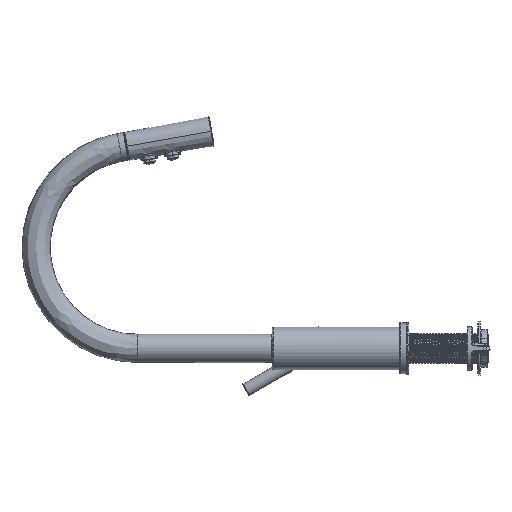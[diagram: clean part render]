
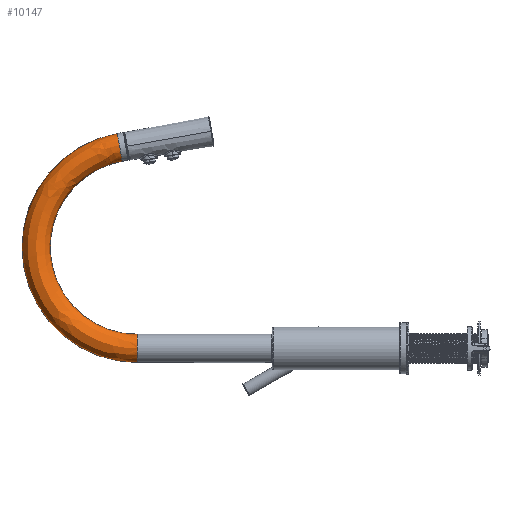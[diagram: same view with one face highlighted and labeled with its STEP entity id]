
A CAD part, left-side view. The second image highlights one B-rep face of the part: STEP entity #10147.
In plain terms, the highlighted free-form (B-spline) face has degree [3, 3] with [4, 4] control points.
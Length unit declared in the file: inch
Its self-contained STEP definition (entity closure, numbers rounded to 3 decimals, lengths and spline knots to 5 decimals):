
#1366 = CARTESIAN_POINT ( 'NONE',  ( -1.1811, 20.40662, 7.54748 ) ) ;
#1451 = ORIENTED_EDGE ( 'NONE', *, *, #45615, .T. ) ;
#1858 = ORIENTED_EDGE ( 'NONE', *, *, #90316, .F. ) ;
#6591 = CARTESIAN_POINT ( 'NONE',  ( -0.08794, 12.5515, 7.7171 ) ) ;
#7357 = CARTESIAN_POINT ( 'NONE',  ( 0., 12.15651, 7.80288 ) ) ;
#7377 = DIRECTION ( 'NONE',  ( 0., 0., 1. ) ) ;
#8626 = AXIS2_PLACEMENT_3D ( 'NONE', #101170, #93024, #69632 ) ;
#8905 = VERTEX_POINT ( 'NONE', #81706 ) ;
#8965 = CARTESIAN_POINT ( 'NONE',  ( -1.1811, 11.52551, 0.59055 ) ) ;
#10147 = ADVANCED_FACE ( 'NONE', ( #107387 ), #56449, .T. ) ;
#10581 = EDGE_LOOP ( 'NONE', ( #96517, #34103, #67368, #89973, #1451, #1858 ) ) ;
#12593 = CARTESIAN_POINT ( 'NONE',  ( -0.08808, 12.52909, 7.72363 ) ) ;
#13124 = CARTESIAN_POINT ( 'NONE',  ( -0.05401, 12.60697, 7.696 ) ) ;
#14457 = DIRECTION ( 'NONE',  ( 1., 0., 0. ) ) ;
#14738 = CARTESIAN_POINT ( 'NONE',  ( -0.07723, 12.58279, 7.70617 ) ) ;
#16586 = CARTESIAN_POINT ( 'NONE',  ( 0., 12.3616, 8.96604 ) ) ;
#20759 = CIRCLE ( 'NONE', #78117, 4.81487 ) ;
#21853 = CARTESIAN_POINT ( 'NONE',  ( -0.04481, 12.46409, 7.73644 ) ) ;
#22632 = CARTESIAN_POINT ( 'NONE',  ( 0., 11.52551, 4.22432 ) ) ;
#22916 = CARTESIAN_POINT ( 'NONE',  ( -0.07071, 12.48744, 7.73285 ) ) ;
#24222 = CARTESIAN_POINT ( 'NONE',  ( 0., 11.52551, 0.59055 ) ) ;
#25046 = CIRCLE ( 'NONE', #91016, 0.59055 ) ;
#26550 = DIRECTION ( 'NONE',  ( 0., 1., 0. ) ) ;
#26939 = VERTEX_POINT ( 'NONE', #67963 ) ;
#29446 = CIRCLE ( 'NONE', #8626, 3.63377 ) ;
#30554 = CARTESIAN_POINT ( 'NONE',  ( -0.01175, 12.45285, 7.73776 ) ) ;
#32097 = DIRECTION ( 'NONE',  ( 0., 0., 1. ) ) ;
#32394 = CARTESIAN_POINT ( 'NONE',  ( 0., 18.22805, 6.7323 ) ) ;
#33836 = CIRCLE ( 'NONE', #91165, 3.63377 ) ;
#34103 = ORIENTED_EDGE ( 'NONE', *, *, #48937, .T. ) ;
#34634 = VERTEX_POINT ( 'NONE', #68837 ) ;
#36094 = B_SPLINE_CURVE_WITH_KNOTS ( 'NONE', 3,
 ( #71873, #47946, #56105, #89254, #71336, #63734, #105555, #13124, #46872, #97389, #14738, #81094, #55033, #6591, #87120, #96320, #12593, #62671, #55564, #47410, #105013, #22916, #39793, #80028, #21853, #95784, #30554, #103416 ),
 .UNSPECIFIED., .F., .F.,
 ( 4, 2, 2, 2, 2, 2, 2, 2, 2, 2, 2, 2, 2, 4 ),
 ( 0.01058, 0.01102, 0.01147, 0.01191, 0.01235, 0.01323, 0.01367, 0.01412, 0.01456, 0.015, 0.01544, 0.01588, 0.01676, 0.01765 ),
 .UNSPECIFIED. ) ;
#37100 = CIRCLE ( 'NONE', #106542, 0.59055 ) ;
#39623 = CARTESIAN_POINT ( 'NONE',  ( 0., 12.15651, 7.80288 ) ) ;
#39793 = CARTESIAN_POINT ( 'NONE',  ( -0.06698, 12.48291, 7.73363 ) ) ;
#42826 = VERTEX_POINT ( 'NONE', #77972 ) ;
#44407 = EDGE_CURVE ( 'NONE', #26939, #61068, #37100, .T. ) ;
#45615 = EDGE_CURVE ( 'NONE', #62528, #8905, #25046, .T. ) ;
#46872 = CARTESIAN_POINT ( 'NONE',  ( -0.05852, 12.60348, 7.69754 ) ) ;
#47410 = CARTESIAN_POINT ( 'NONE',  ( -0.07983, 12.502, 7.73005 ) ) ;
#47946 = CARTESIAN_POINT ( 'NONE',  ( -0.00588, 12.62399, 7.68807 ) ) ;
#47971 = CARTESIAN_POINT ( 'NONE',  ( 0., 12.25906, 8.38446 ) ) ;
#48937 = EDGE_CURVE ( 'NONE', #61068, #34634, #33836, .T. ) ;
#49786 = CARTESIAN_POINT ( 'NONE',  ( 0., 17.69072, 0.59055 ) ) ;
#50862 = CARTESIAN_POINT ( 'NONE',  ( 0., 20.40662, 7.54748 ) ) ;
#51029 = DIRECTION ( 'NONE',  ( 0., 0., -1. ) ) ;
#55033 = CARTESIAN_POINT ( 'NONE',  ( -0.0856, 12.5624, 7.71352 ) ) ;
#55564 = CARTESIAN_POINT ( 'NONE',  ( -0.08423, 12.51255, 7.72773 ) ) ;
#56105 = CARTESIAN_POINT ( 'NONE',  ( -0.01165, 12.62345, 7.68834 ) ) ;
#56449 =( BOUNDED_SURFACE ( )  B_SPLINE_SURFACE ( 3, 3, ( 
 ( #66109, #66641, #50862, #16586 ),
 ( #73689, #75305, #1366, #84013 ),
 ( #8965, #57945, #90012, #75838 ),
 ( #24222, #49786, #32394, #7357 ) ),
 .UNSPECIFIED., .F., .F., .T. ) 
 B_SPLINE_SURFACE_WITH_KNOTS ( ( 4, 4 ),
 ( 4, 4 ),
 ( 0., 1. ),
 ( 0., 1. ),
 .UNSPECIFIED. ) 
 GEOMETRIC_REPRESENTATION_ITEM ( )  RATIONAL_B_SPLINE_SURFACE ( (
 ( 1., 0.391, 0.391, 1.),
 ( 0.333, 0.13, 0.13, 0.333),
 ( 0.333, 0.13, 0.13, 0.333),
 ( 1., 0.391, 0.391, 1.) ) ) 
 REPRESENTATION_ITEM ( '' )  SURFACE ( )  );
#57945 = CARTESIAN_POINT ( 'NONE',  ( -1.1811, 17.69072, 0.59055 ) ) ;
#61068 = VERTEX_POINT ( 'NONE', #79556 ) ;
#62528 = VERTEX_POINT ( 'NONE', #39623 ) ;
#62671 = CARTESIAN_POINT ( 'NONE',  ( -0.0859, 12.51806, 7.72643 ) ) ;
#63734 = CARTESIAN_POINT ( 'NONE',  ( -0.03935, 12.61555, 7.69209 ) ) ;
#66109 = CARTESIAN_POINT ( 'NONE',  ( 0., 11.52551, -0.59055 ) ) ;
#66641 = CARTESIAN_POINT ( 'NONE',  ( 0., 19.69463, -0.59055 ) ) ;
#67368 = ORIENTED_EDGE ( 'NONE', *, *, #99249, .T. ) ;
#67963 = CARTESIAN_POINT ( 'NONE',  ( 0., 11.52551, -0.59055 ) ) ;
#68837 = CARTESIAN_POINT ( 'NONE',  ( 0., 12.62399, 7.68807 ) ) ;
#69632 = DIRECTION ( 'NONE',  ( 0., 0., 1. ) ) ;
#70875 = EDGE_CURVE ( 'NONE', #42826, #62528, #29446, .T. ) ;
#71336 = CARTESIAN_POINT ( 'NONE',  ( -0.02865, 12.61972, 7.69013 ) ) ;
#71873 = CARTESIAN_POINT ( 'NONE',  ( 0., 12.62399, 7.68807 ) ) ;
#71897 = DIRECTION ( 'NONE',  ( 0., 0.174, 0.985 ) ) ;
#73689 = CARTESIAN_POINT ( 'NONE',  ( -1.1811, 11.52551, -0.59055 ) ) ;
#75305 = CARTESIAN_POINT ( 'NONE',  ( -1.1811, 19.69463, -0.59055 ) ) ;
#75838 = CARTESIAN_POINT ( 'NONE',  ( -1.1811, 12.15651, 7.80288 ) ) ;
#77972 = CARTESIAN_POINT ( 'NONE',  ( 0., 12.45285, 7.73776 ) ) ;
#78117 = AXIS2_PLACEMENT_3D ( 'NONE', #22632, #14457, #7377 ) ;
#79556 = CARTESIAN_POINT ( 'NONE',  ( 0., 11.52551, 0.59055 ) ) ;
#80028 = CARTESIAN_POINT ( 'NONE',  ( -0.05472, 12.4707, 7.73558 ) ) ;
#80052 = DIRECTION ( 'NONE',  ( 0., 0.985, -0.174 ) ) ;
#81094 = CARTESIAN_POINT ( 'NONE',  ( -0.08388, 12.5677, 7.71167 ) ) ;
#81706 = CARTESIAN_POINT ( 'NONE',  ( 0., 12.3616, 8.96604 ) ) ;
#84013 = CARTESIAN_POINT ( 'NONE',  ( -1.1811, 12.3616, 8.96604 ) ) ;
#87120 = CARTESIAN_POINT ( 'NONE',  ( -0.08854, 12.54596, 7.71882 ) ) ;
#89254 = CARTESIAN_POINT ( 'NONE',  ( -0.02301, 12.62133, 7.68936 ) ) ;
#89973 = ORIENTED_EDGE ( 'NONE', *, *, #70875, .T. ) ;
#90012 = CARTESIAN_POINT ( 'NONE',  ( -1.1811, 18.22805, 6.7323 ) ) ;
#90250 = DIRECTION ( 'NONE',  ( 1., 0., 0. ) ) ;
#90316 = EDGE_CURVE ( 'NONE', #26939, #8905, #20759, .T. ) ;
#91016 = AXIS2_PLACEMENT_3D ( 'NONE', #47971, #80052, #71897 ) ;
#91165 = AXIS2_PLACEMENT_3D ( 'NONE', #106566, #90250, #32097 ) ;
#92865 = CARTESIAN_POINT ( 'NONE',  ( 0., 11.52551, 0. ) ) ;
#93024 = DIRECTION ( 'NONE',  ( 1., 0., 0. ) ) ;
#95784 = CARTESIAN_POINT ( 'NONE',  ( -0.02343, 12.45522, 7.73752 ) ) ;
#96320 = CARTESIAN_POINT ( 'NONE',  ( -0.08862, 12.53468, 7.7221 ) ) ;
#96517 = ORIENTED_EDGE ( 'NONE', *, *, #44407, .T. ) ;
#97389 = CARTESIAN_POINT ( 'NONE',  ( -0.07068, 12.59203, 7.70244 ) ) ;
#99249 = EDGE_CURVE ( 'NONE', #34634, #42826, #36094, .T. ) ;
#101170 = CARTESIAN_POINT ( 'NONE',  ( 0., 11.52551, 4.22432 ) ) ;
#103416 = CARTESIAN_POINT ( 'NONE',  ( 0., 12.45285, 7.73776 ) ) ;
#105013 = CARTESIAN_POINT ( 'NONE',  ( -0.07712, 12.49697, 7.73106 ) ) ;
#105555 = CARTESIAN_POINT ( 'NONE',  ( -0.04442, 12.613, 7.69327 ) ) ;
#106542 = AXIS2_PLACEMENT_3D ( 'NONE', #92865, #26550, #51029 ) ;
#106566 = CARTESIAN_POINT ( 'NONE',  ( 0., 11.52551, 4.22432 ) ) ;
#107387 = FACE_OUTER_BOUND ( 'NONE', #10581, .T. ) ;
